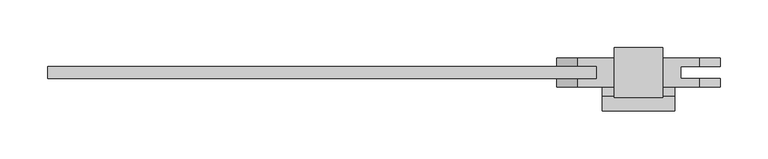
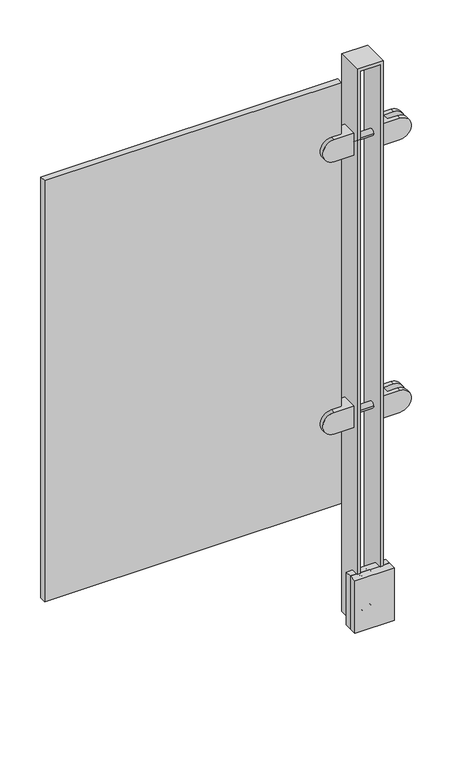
"""IFC4 building model written with IfcOpenShell, lengths in millimetres: proxy geometry, LIVERS_ICN - Glass Panel : LIVERS_ICN - Glass Panel."""

from ifc_helpers import new_model, si_unit, point, frame, origin, place, context, project, spatial, polyline, circle_curve, ellipse_curve, trimmed, outline, extrude, faceted_brep, source, transform, mapped, element, save
from ifc_brep_helpers import plane_surface, cylinder_surface, revolved_surface, advanced_brep


def building_element_proxy_80f81ed7(model_context):
    return source(origin(), model_context, "Body", "SolidModel", [
        advanced_brep(
        [(897.5541718, 55.5624457, 313.5369168), (897.5541718, 25.3999457, 313.5369168), (897.5541718, 25.3999457, 269.0869168), (897.5541718, 55.5624457, 269.0869168), (859.3530778, 55.5624457, 269.0869168), (859.3530778, 55.5624457, 313.5369168), (859.3530778, 25.3999457, 269.0869168), (859.3530778, 34.1311957, 269.0869168), (878.6822526, 34.1311957, 269.0869168), (878.6822526, 46.8311957, 269.0869168), (859.3530778, 46.8311957, 269.0869168), (859.3530778, 25.3999457, 313.5369168), (859.3530778, 46.8311957, 313.5369168), (878.6822526, 46.8311957, 313.5369168), (878.6822526, 34.1311957, 313.5369168), (859.3530778, 34.1311957, 313.5369168)],
        [
            (0, 1),
            (1, 2),
            (2, 3),
            (3, 0),
            (3, 4),
            (4, 5, circle_curve(frame((859.3530778, 55.5624457, 291.3119168), z_axis=(0.0, 1.0, 0.0), x_axis=(0.0, 0.0, -1.0)), 22.225)),
            (5, 0),
            (2, 6),
            (6, 7),
            (7, 8),
            (8, 9),
            (9, 10),
            (10, 4),
            (1, 11),
            (11, 6, circle_curve(frame((859.3530778, 25.3999457, 291.3119168), z_axis=(0.0, -1.0, 0.0), x_axis=(0.0, 0.0, -1.0)), 22.225)),
            (5, 12),
            (12, 13),
            (13, 14),
            (14, 15),
            (15, 11),
            (13, 9),
            (8, 14),
            (12, 10, circle_curve(frame((859.3530778, 46.8311957, 291.3119168), z_axis=(0.0, -1.0, 0.0), x_axis=(0.0, 0.0, -1.0)), 22.225)),
            (7, 15, circle_curve(frame((859.3530778, 34.1311957, 291.3119168), z_axis=(0.0, 1.0, 0.0), x_axis=(0.0, 0.0, -1.0)), 22.225)),
        ],
        [
            plane_surface(frame((897.5541718, 55.5624457, 269.0869168), z_axis=(1.0, 0.0, 0.0), x_axis=(0.0, 0.0, 1.0))),
            plane_surface(frame((837.0510911, 55.5624457, 313.5369168), z_axis=(0.0, 1.0, 0.0), x_axis=(1.0, 0.0, 0.0))),
            plane_surface(frame((837.0510911, 55.5624457, 269.0869168), z_axis=(0.0, 0.0, -1.0), x_axis=(1.0, 0.0, 0.0))),
            plane_surface(frame((837.0510911, 25.3999457, 269.0869168), z_axis=(0.0, -1.0, 0.0), x_axis=(1.0, 0.0, 0.0))),
            plane_surface(frame((837.0510911, 25.3999457, 313.5369168), z_axis=(0.0, 0.0, 1.0), x_axis=(1.0, 0.0, 0.0))),
            plane_surface(frame((878.6822526, 46.8311957, 269.0869168), z_axis=(-1.0, 0.0, 0.0), x_axis=(0.0, 0.0, 1.0))),
            plane_surface(frame((837.0510911, 46.8311957, 313.5369168), z_axis=(0.0, -1.0, 0.0), x_axis=(1.0, 0.0, 0.0))),
            plane_surface(frame((837.0510911, 34.1311957, 269.0869168), z_axis=(0.0, 1.0, 0.0), x_axis=(1.0, 0.0, 0.0))),
            cylinder_surface(frame((859.3530778, 55.5624457, 291.3119168), z_axis=(0.0, 1.0, 0.0), x_axis=(0.0, 0.0, -1.0)), 22.225),
        ],
        [
            (0, [[1, 2, 3, 4]]),
            (1, [[-4, 5, 6, 7]]),
            (2, [[-3, 8, 9, 10, 11, 12, 13, -5]]),
            (3, [[-2, 14, 15, -8]]),
            (4, [[-1, -7, 16, 17, 18, 19, 20, -14]]),
            (5, [[21, -11, 22, -18]]),
            (6, [[-21, -17, 23, -12]]),
            (7, [[-22, -10, 24, -19]]),
            (8, [[-6, -13, -23, -16]]),
            (8, [[-9, -15, -20, -24]]),
        ],
    ),
        advanced_brep(
        [(948.3541718, 55.5624457, 313.5369168), (948.3541718, 55.5624457, 269.0869168), (948.3541718, 25.3999457, 269.0869168), (948.3541718, 25.3999457, 313.5369168), (986.5552658, 55.5624457, 313.5369168), (986.5552658, 55.5624457, 269.0869168), (986.5552658, 46.8311957, 269.0869168), (967.2260911, 46.8311957, 269.0869168), (967.2260911, 34.1311957, 269.0869168), (986.5552658, 34.1311957, 269.0869168), (986.5552658, 25.3999457, 269.0869168), (986.5552658, 25.3999457, 313.5369168), (986.5552658, 34.1311957, 313.5369168), (967.2260911, 34.1311957, 313.5369168), (967.2260911, 46.8311957, 313.5369168), (986.5552658, 46.8311957, 313.5369168)],
        [
            (0, 1),
            (1, 2),
            (2, 3),
            (3, 0),
            (0, 4),
            (4, 5, circle_curve(frame((986.5552658, 55.5624457, 291.3119168), z_axis=(0.0, 1.0, 0.0), x_axis=(0.0, 0.0, -1.0)), 22.225)),
            (5, 1),
            (5, 6),
            (6, 7),
            (7, 8),
            (8, 9),
            (9, 10),
            (10, 2),
            (10, 11, circle_curve(frame((986.5552658, 25.3999457, 291.3119168), z_axis=(0.0, -1.0, 0.0), x_axis=(0.0, 0.0, -1.0)), 22.225)),
            (11, 3),
            (11, 12),
            (12, 13),
            (13, 14),
            (14, 15),
            (15, 4),
            (13, 8),
            (7, 14),
            (6, 15, circle_curve(frame((986.5552658, 46.8311957, 291.3119168), z_axis=(0.0, -1.0, 0.0), x_axis=(0.0, 0.0, -1.0)), 22.225)),
            (12, 9, circle_curve(frame((986.5552658, 34.1311957, 291.3119168), z_axis=(0.0, 1.0, 0.0), x_axis=(0.0, 0.0, -1.0)), 22.225)),
        ],
        [
            plane_surface(frame((948.3541718, 55.5624457, 269.0869168), z_axis=(-1.0, 0.0, 0.0), x_axis=(0.0, 0.0, 1.0))),
            plane_surface(frame((1008.8572526, 55.5624457, 313.5369168), z_axis=(0.0, 1.0, 0.0), x_axis=(-1.0, 0.0, 0.0))),
            plane_surface(frame((1008.8572526, 55.5624457, 269.0869168), z_axis=(0.0, 0.0, -1.0), x_axis=(-1.0, 0.0, 0.0))),
            plane_surface(frame((1008.8572526, 25.3999457, 269.0869168), z_axis=(0.0, -1.0, 0.0), x_axis=(-1.0, 0.0, 0.0))),
            plane_surface(frame((1008.8572526, 25.3999457, 313.5369168), z_axis=(0.0, 0.0, 1.0), x_axis=(-1.0, 0.0, 0.0))),
            plane_surface(frame((967.2260911, 46.8311957, 269.0869168), z_axis=(1.0, 0.0, 0.0), x_axis=(0.0, 0.0, 1.0))),
            plane_surface(frame((1008.8572526, 46.8311957, 313.5369168), z_axis=(0.0, -1.0, 0.0), x_axis=(-1.0, 0.0, 0.0))),
            plane_surface(frame((1008.8572526, 34.1311957, 269.0869168), z_axis=(0.0, 1.0, 0.0), x_axis=(-1.0, 0.0, 0.0))),
            cylinder_surface(frame((986.5552658, 55.5624457, 291.3119168), z_axis=(0.0, 1.0, 0.0), x_axis=(0.0, 0.0, -1.0)), 22.225),
        ],
        [
            (0, [[1, 2, 3, 4]]),
            (1, [[5, 6, 7, -1]]),
            (2, [[-7, 8, 9, 10, 11, 12, 13, -2]]),
            (3, [[-13, 14, 15, -3]]),
            (4, [[-15, 16, 17, 18, 19, 20, -5, -4]]),
            (5, [[-18, 21, -10, 22]]),
            (6, [[-9, 23, -19, -22]]),
            (7, [[-17, 24, -11, -21]]),
            (8, [[-20, -23, -8, -6]]),
            (8, [[-24, -16, -14, -12]]),
        ],
    ),
        advanced_brep(
        [(897.5541718, 55.5624457, 872.3369168), (897.5541718, 25.3999457, 872.3369168), (897.5541718, 25.3999457, 827.8869168), (897.5541718, 55.5624457, 827.8869168), (859.3530778, 55.5624457, 827.8869168), (859.3530778, 55.5624457, 872.3369168), (859.3530778, 25.3999457, 827.8869168), (859.3530778, 34.1311957, 827.8869168), (878.6822526, 34.1311957, 827.8869168), (878.6822526, 46.8311957, 827.8869168), (859.3530778, 46.8311957, 827.8869168), (859.3530778, 25.3999457, 872.3369168), (859.3530778, 46.8311957, 872.3369168), (878.6822526, 46.8311957, 872.3369168), (878.6822526, 34.1311957, 872.3369168), (859.3530778, 34.1311957, 872.3369168)],
        [
            (0, 1),
            (1, 2),
            (2, 3),
            (3, 0),
            (3, 4),
            (4, 5, circle_curve(frame((859.3530778, 55.5624457, 850.1119168), z_axis=(0.0, 1.0, 0.0), x_axis=(0.0, 0.0, -1.0)), 22.225)),
            (5, 0),
            (2, 6),
            (6, 7),
            (7, 8),
            (8, 9),
            (9, 10),
            (10, 4),
            (1, 11),
            (11, 6, circle_curve(frame((859.3530778, 25.3999457, 850.1119168), z_axis=(0.0, -1.0, 0.0), x_axis=(0.0, 0.0, -1.0)), 22.225)),
            (5, 12),
            (12, 13),
            (13, 14),
            (14, 15),
            (15, 11),
            (13, 9),
            (8, 14),
            (12, 10, circle_curve(frame((859.3530778, 46.8311957, 850.1119168), z_axis=(0.0, -1.0, 0.0), x_axis=(0.0, 0.0, -1.0)), 22.225)),
            (7, 15, circle_curve(frame((859.3530778, 34.1311957, 850.1119168), z_axis=(0.0, 1.0, 0.0), x_axis=(0.0, 0.0, -1.0)), 22.225)),
        ],
        [
            plane_surface(frame((897.5541718, 55.5624457, 827.8869168), z_axis=(1.0, 0.0, 0.0), x_axis=(0.0, 0.0, 1.0))),
            plane_surface(frame((837.0510911, 55.5624457, 872.3369168), z_axis=(0.0, 1.0, 0.0), x_axis=(1.0, 0.0, 0.0))),
            plane_surface(frame((837.0510911, 55.5624457, 827.8869168), z_axis=(0.0, 0.0, -1.0), x_axis=(1.0, 0.0, 0.0))),
            plane_surface(frame((837.0510911, 25.3999457, 827.8869168), z_axis=(0.0, -1.0, 0.0), x_axis=(1.0, 0.0, 0.0))),
            plane_surface(frame((837.0510911, 25.3999457, 872.3369168), z_axis=(0.0, 0.0, 1.0), x_axis=(1.0, 0.0, 0.0))),
            plane_surface(frame((878.6822526, 46.8311957, 827.8869168), z_axis=(-1.0, 0.0, 0.0), x_axis=(0.0, 0.0, 1.0))),
            plane_surface(frame((837.0510911, 46.8311957, 872.3369168), z_axis=(0.0, -1.0, 0.0), x_axis=(1.0, 0.0, 0.0))),
            plane_surface(frame((837.0510911, 34.1311957, 827.8869168), z_axis=(0.0, 1.0, 0.0), x_axis=(1.0, 0.0, 0.0))),
            cylinder_surface(frame((859.3530778, 55.5624457, 850.1119168), z_axis=(0.0, 1.0, 0.0), x_axis=(0.0, 0.0, -1.0)), 22.225),
        ],
        [
            (0, [[1, 2, 3, 4]]),
            (1, [[-4, 5, 6, 7]]),
            (2, [[-3, 8, 9, 10, 11, 12, 13, -5]]),
            (3, [[-2, 14, 15, -8]]),
            (4, [[-1, -7, 16, 17, 18, 19, 20, -14]]),
            (5, [[21, -11, 22, -18]]),
            (6, [[-21, -17, 23, -12]]),
            (7, [[-22, -10, 24, -19]]),
            (8, [[-6, -13, -23, -16]]),
            (8, [[-9, -15, -20, -24]]),
        ],
    ),
        advanced_brep(
        [(948.3541718, 55.5624457, 872.3369168), (948.3541718, 55.5624457, 827.8869168), (948.3541718, 25.3999457, 827.8869168), (948.3541718, 25.3999457, 872.3369168), (986.5552658, 55.5624457, 872.3369168), (986.5552658, 55.5624457, 827.8869168), (986.5552658, 46.8311957, 827.8869168), (967.2260911, 46.8311957, 827.8869168), (967.2260911, 34.1311957, 827.8869168), (986.5552658, 34.1311957, 827.8869168), (986.5552658, 25.3999457, 827.8869168), (986.5552658, 25.3999457, 872.3369168), (986.5552658, 34.1311957, 872.3369168), (967.2260911, 34.1311957, 872.3369168), (967.2260911, 46.8311957, 872.3369168), (986.5552658, 46.8311957, 872.3369168)],
        [
            (0, 1),
            (1, 2),
            (2, 3),
            (3, 0),
            (0, 4),
            (4, 5, circle_curve(frame((986.5552658, 55.5624457, 850.1119168), z_axis=(0.0, 1.0, 0.0), x_axis=(0.0, 0.0, -1.0)), 22.225)),
            (5, 1),
            (5, 6),
            (6, 7),
            (7, 8),
            (8, 9),
            (9, 10),
            (10, 2),
            (10, 11, circle_curve(frame((986.5552658, 25.3999457, 850.1119168), z_axis=(0.0, -1.0, 0.0), x_axis=(0.0, 0.0, -1.0)), 22.225)),
            (11, 3),
            (11, 12),
            (12, 13),
            (13, 14),
            (14, 15),
            (15, 4),
            (13, 8),
            (7, 14),
            (6, 15, circle_curve(frame((986.5552658, 46.8311957, 850.1119168), z_axis=(0.0, -1.0, 0.0), x_axis=(0.0, 0.0, -1.0)), 22.225)),
            (12, 9, circle_curve(frame((986.5552658, 34.1311957, 850.1119168), z_axis=(0.0, 1.0, 0.0), x_axis=(0.0, 0.0, -1.0)), 22.225)),
        ],
        [
            plane_surface(frame((948.3541718, 55.5624457, 827.8869168), z_axis=(-1.0, 0.0, 0.0), x_axis=(0.0, 0.0, 1.0))),
            plane_surface(frame((1008.8572526, 55.5624457, 872.3369168), z_axis=(0.0, 1.0, 0.0), x_axis=(-1.0, 0.0, 0.0))),
            plane_surface(frame((1008.8572526, 55.5624457, 827.8869168), z_axis=(0.0, 0.0, -1.0), x_axis=(-1.0, 0.0, 0.0))),
            plane_surface(frame((1008.8572526, 25.3999457, 827.8869168), z_axis=(0.0, -1.0, 0.0), x_axis=(-1.0, 0.0, 0.0))),
            plane_surface(frame((1008.8572526, 25.3999457, 872.3369168), z_axis=(0.0, 0.0, 1.0), x_axis=(-1.0, 0.0, 0.0))),
            plane_surface(frame((967.2260911, 46.8311957, 827.8869168), z_axis=(1.0, 0.0, 0.0), x_axis=(0.0, 0.0, 1.0))),
            plane_surface(frame((1008.8572526, 46.8311957, 872.3369168), z_axis=(0.0, -1.0, 0.0), x_axis=(-1.0, 0.0, 0.0))),
            plane_surface(frame((1008.8572526, 34.1311957, 827.8869168), z_axis=(0.0, 1.0, 0.0), x_axis=(-1.0, 0.0, 0.0))),
            cylinder_surface(frame((986.5552658, 55.5624457, 850.1119168), z_axis=(0.0, 1.0, 0.0), x_axis=(0.0, 0.0, -1.0)), 22.225),
        ],
        [
            (0, [[1, 2, 3, 4]]),
            (1, [[5, 6, 7, -1]]),
            (2, [[-7, 8, 9, 10, 11, 12, 13, -2]]),
            (3, [[-13, 14, 15, -3]]),
            (4, [[-15, 16, 17, 18, 19, 20, -5, -4]]),
            (5, [[-18, 21, -10, 22]]),
            (6, [[-9, 23, -19, -22]]),
            (7, [[-17, 24, -11, -21]]),
            (8, [[-20, -23, -8, -6]]),
            (8, [[-24, -16, -14, -12]]),
        ],
    ),
        advanced_brep(
        [(922.9541718, 28.575, -125.3541166), (922.9541718, 29.7562407, -125.3541166), (922.9541718, 29.7562407, -103.1291055), (922.9541718, 28.575, -103.1291055), (922.9541718, 28.575, -114.2416111), (922.9541718, 32.325, -119.8541166), (922.9541718, 30.8816229, -114.2416111), (922.9541718, 32.325, -108.6291055), (922.9541718, 34.8740117, -119.8541166), (922.9541718, 34.8740117, -108.6291055), (922.9541718, 33.8500285, -122.802123), (922.9541718, 33.8500285, -105.6810991), (922.9541718, 31.8562692, -124.5603989), (922.9541718, 31.8562692, -103.9228232)],
        [
            (0, 1),
            (1, 2, circle_curve(frame((922.9541718, 29.7562407, -114.2416111), z_axis=(0.0, -1.0, 0.0), x_axis=(0.0, 0.0, 1.0)), 11.1125056)),
            (2, 3),
            (3, 0, circle_curve(frame((922.9541718, 28.575, -114.2416111), z_axis=(0.0, 1.0, 0.0), x_axis=(0.0, 0.0, 1.0)), 11.1125056)),
            (2, 1, circle_curve(frame((922.9541718, 29.7562407, -114.2416111), z_axis=(0.0, -1.0, 0.0), x_axis=(0.0, 0.0, 1.0)), 11.1125056)),
            (0, 3, circle_curve(frame((922.9541718, 28.575, -114.2416111), z_axis=(0.0, 1.0, 0.0), x_axis=(0.0, 0.0, 1.0)), 11.1125056)),
            (4, 0),
            (3, 4),
            (5, 6),
            (6, 7),
            (7, 5, circle_curve(frame((922.9541718, 32.325, -114.2416111), z_axis=(0.0, 1.0, 0.0), x_axis=(0.0, 0.0, 1.0)), 5.6125056)),
            (5, 7, circle_curve(frame((922.9541718, 32.325, -114.2416111), z_axis=(0.0, 1.0, 0.0), x_axis=(0.0, 0.0, 1.0)), 5.6125056)),
            (8, 5),
            (7, 9),
            (9, 8, circle_curve(frame((922.9541718, 34.8740117, -114.2416111), z_axis=(0.0, 1.0, 0.0), x_axis=(0.0, 0.0, 1.0)), 5.6125056)),
            (8, 9, circle_curve(frame((922.9541718, 34.8740117, -114.2416111), z_axis=(0.0, 1.0, 0.0), x_axis=(0.0, 0.0, 1.0)), 5.6125056)),
            (10, 8, circle_curve(frame((922.9541718, 31.75, -120.4208407), z_axis=(1.0, 0.0, 0.0), x_axis=(0.0, -1.0, 0.0)), 3.175)),
            (9, 11, circle_curve(frame((922.9541718, 31.75, -108.0623814), z_axis=(1.0, 0.0, 0.0), x_axis=(0.0, -1.0, 0.0)), 3.175)),
            (11, 10, circle_curve(frame((922.9541718, 33.8500285, -114.2416111), z_axis=(0.0, 1.0, 0.0), x_axis=(0.0, 0.0, 1.0)), 8.560512)),
            (10, 11, circle_curve(frame((922.9541718, 33.8500285, -114.2416111), z_axis=(0.0, 1.0, 0.0), x_axis=(0.0, 0.0, 1.0)), 8.560512)),
            (12, 10),
            (11, 13),
            (13, 12, circle_curve(frame((922.9541718, 31.8562692, -114.2416111), z_axis=(0.0, 1.0, 0.0), x_axis=(0.0, 0.0, 1.0)), 10.3187879)),
            (12, 13, circle_curve(frame((922.9541718, 31.8562692, -114.2416111), z_axis=(0.0, 1.0, 0.0), x_axis=(0.0, 0.0, 1.0)), 10.3187879)),
            (1, 12, circle_curve(frame((922.9541718, 29.7562407, -122.1791166), z_axis=(1.0, 0.0, 0.0), x_axis=(0.0, -1.0, 0.0)), 3.175)),
            (13, 2, circle_curve(frame((922.9541718, 29.7562407, -106.3041055), z_axis=(1.0, 0.0, 0.0), x_axis=(0.0, -1.0, 0.0)), 3.175)),
        ],
        [
            cylinder_surface(frame((922.9541718, 28.575, -114.2416111), z_axis=(0.0, -1.0, 0.0), x_axis=(0.0, 0.0, 1.0)), 11.1125056),
            plane_surface(frame((922.9541718, 28.575, -114.2416111), z_axis=(0.0, -1.0, 0.0), x_axis=(0.0, 0.0, 1.0))),
            revolved_surface(polyline([(922.9541718, 30.8816229, -114.2416111), (922.9541718, 32.325, -108.6291055)]), (922.9541718, 28.575, -114.2416111), (0.0, -1.0, 0.0)),
            revolved_surface(polyline([(922.9541718, 32.325, -108.6291055), (922.9541718, 34.8740117, -108.6291055)]), (922.9541718, 28.575, -114.2416111), (0.0, -1.0, 0.0)),
            revolved_surface(trimmed(ellipse_curve(frame((922.9541718, 31.75, -108.0623814), z_axis=(1.0, 0.0, 0.0), x_axis=(0.0, -1.0, 0.0)), 3.175, 3.175), [point((922.9541718, 34.8740117, -108.6291055))], [point((922.9541718, 33.8500285, -105.6810991))], True, "CARTESIAN"), (922.9541718, 28.575, -114.2416111), (0.0, -1.0, 0.0)),
            revolved_surface(polyline([(922.9541718, 33.8500285, -105.6810991), (922.9541718, 31.8562692, -103.9228232)]), (922.9541718, 28.575, -114.2416111), (0.0, -1.0, 0.0)),
            revolved_surface(trimmed(ellipse_curve(frame((922.9541718, 29.7562407, -106.3041055), z_axis=(1.0, 0.0, 0.0), x_axis=(0.0, -1.0, 0.0)), 3.175, 3.175), [point((922.9541718, 31.8562692, -103.9228232))], [point((922.9541718, 29.7562407, -103.1291055))], True, "CARTESIAN"), (922.9541718, 28.575, -114.2416111), (0.0, -1.0, 0.0)),
        ],
        [
            (0, [[1, 2, 3, 4]]),
            (0, [[-3, 5, -1, 6]]),
            (1, [[7, -4, 8]]),
            (1, [[-8, -6, -7]]),
            (2, [[9, 10, 11]]),
            (2, [[-10, -9, 12]]),
            (3, [[13, -11, 14, 15]]),
            (3, [[-14, -12, -13, 16]]),
            (4, [[17, -15, 18, 19]]),
            (4, [[-18, -16, -17, 20]]),
            (5, [[21, -19, 22, 23]]),
            (5, [[-22, -20, -21, 24]]),
            (6, [[25, -23, 26, -2]]),
            (6, [[-26, -24, -25, -5]]),
        ],
    ),
        advanced_brep(
        [(922.9541718, 28.575, -55.5041166), (922.9541718, 29.7562407, -55.5041166), (922.9541718, 29.7562407, -33.2791055), (922.9541718, 28.575, -33.2791055), (922.9541718, 28.575, -44.3916111), (922.9541718, 33.8500285, -52.952123), (922.9541718, 34.8740117, -50.0041166), (922.9541718, 34.8740117, -38.7791055), (922.9541718, 33.8500285, -35.8310991), (922.9541718, 31.8562692, -54.7103989), (922.9541718, 31.8562692, -34.0728232), (922.9541718, 32.325, -50.0041166), (922.9541718, 30.8816229, -44.3916111), (922.9541718, 32.325, -38.7791055)],
        [
            (0, 1),
            (1, 2, circle_curve(frame((922.9541718, 29.7562407, -44.3916111), z_axis=(0.0, -1.0, 0.0), x_axis=(0.0, 0.0, 1.0)), 11.1125056)),
            (2, 3),
            (3, 0, circle_curve(frame((922.9541718, 28.575, -44.3916111), z_axis=(0.0, 1.0, 0.0), x_axis=(0.0, 0.0, 1.0)), 11.1125056)),
            (2, 1, circle_curve(frame((922.9541718, 29.7562407, -44.3916111), z_axis=(0.0, -1.0, 0.0), x_axis=(0.0, 0.0, 1.0)), 11.1125056)),
            (0, 3, circle_curve(frame((922.9541718, 28.575, -44.3916111), z_axis=(0.0, 1.0, 0.0), x_axis=(0.0, 0.0, 1.0)), 11.1125056)),
            (4, 0),
            (3, 4),
            (5, 6, circle_curve(frame((922.9541718, 31.75, -50.5708407), z_axis=(1.0, 0.0, 0.0), x_axis=(0.0, -1.0, 0.0)), 3.175)),
            (6, 7, circle_curve(frame((922.9541718, 34.8740117, -44.3916111), z_axis=(0.0, -1.0, 0.0), x_axis=(0.0, 0.0, 1.0)), 5.6125056)),
            (7, 8, circle_curve(frame((922.9541718, 31.75, -38.2123814), z_axis=(1.0, 0.0, 0.0), x_axis=(0.0, -1.0, 0.0)), 3.175)),
            (8, 5, circle_curve(frame((922.9541718, 33.8500285, -44.3916111), z_axis=(0.0, 1.0, 0.0), x_axis=(0.0, 0.0, 1.0)), 8.560512)),
            (7, 6, circle_curve(frame((922.9541718, 34.8740117, -44.3916111), z_axis=(0.0, -1.0, 0.0), x_axis=(0.0, 0.0, 1.0)), 5.6125056)),
            (5, 8, circle_curve(frame((922.9541718, 33.8500285, -44.3916111), z_axis=(0.0, 1.0, 0.0), x_axis=(0.0, 0.0, 1.0)), 8.560512)),
            (9, 5),
            (8, 10),
            (10, 9, circle_curve(frame((922.9541718, 31.8562692, -44.3916111), z_axis=(0.0, 1.0, 0.0), x_axis=(0.0, 0.0, 1.0)), 10.3187879)),
            (9, 10, circle_curve(frame((922.9541718, 31.8562692, -44.3916111), z_axis=(0.0, 1.0, 0.0), x_axis=(0.0, 0.0, 1.0)), 10.3187879)),
            (1, 9, circle_curve(frame((922.9541718, 29.7562407, -52.3291166), z_axis=(1.0, 0.0, 0.0), x_axis=(0.0, -1.0, 0.0)), 3.175)),
            (10, 2, circle_curve(frame((922.9541718, 29.7562407, -36.4541055), z_axis=(1.0, 0.0, 0.0), x_axis=(0.0, -1.0, 0.0)), 3.175)),
            (11, 12),
            (12, 13),
            (13, 11, circle_curve(frame((922.9541718, 32.325, -44.3916111), z_axis=(0.0, 1.0, 0.0), x_axis=(0.0, 0.0, 1.0)), 5.6125056)),
            (11, 13, circle_curve(frame((922.9541718, 32.325, -44.3916111), z_axis=(0.0, 1.0, 0.0), x_axis=(0.0, 0.0, 1.0)), 5.6125056)),
            (6, 11),
            (13, 7),
        ],
        [
            cylinder_surface(frame((922.9541718, 28.575, -44.3916111), z_axis=(0.0, -1.0, 0.0), x_axis=(0.0, 0.0, 1.0)), 11.1125056),
            plane_surface(frame((922.9541718, 28.575, -44.3916111), z_axis=(0.0, -1.0, 0.0), x_axis=(0.0, 0.0, 1.0))),
            revolved_surface(trimmed(ellipse_curve(frame((922.9541718, 31.75, -38.2123814), z_axis=(1.0, 0.0, 0.0), x_axis=(0.0, -1.0, 0.0)), 3.175, 3.175), [point((922.9541718, 34.8740117, -38.7791055))], [point((922.9541718, 33.8500285, -35.8310991))], True, "CARTESIAN"), (922.9541718, 28.575, -44.3916111), (0.0, -1.0, 0.0)),
            revolved_surface(polyline([(922.9541718, 33.8500285, -35.8310991), (922.9541718, 31.8562692, -34.0728232)]), (922.9541718, 28.575, -44.3916111), (0.0, -1.0, 0.0)),
            revolved_surface(trimmed(ellipse_curve(frame((922.9541718, 29.7562407, -36.4541055), z_axis=(1.0, 0.0, 0.0), x_axis=(0.0, -1.0, 0.0)), 3.175, 3.175), [point((922.9541718, 31.8562692, -34.0728232))], [point((922.9541718, 29.7562407, -33.2791055))], True, "CARTESIAN"), (922.9541718, 28.575, -44.3916111), (0.0, -1.0, 0.0)),
            revolved_surface(polyline([(922.9541718, 30.8816229, -44.3916111), (922.9541718, 32.325, -38.7791055)]), (922.9541718, 28.575, -44.3916111), (0.0, -1.0, 0.0)),
            revolved_surface(polyline([(922.9541718, 32.325, -38.7791055), (922.9541718, 34.8740117, -38.7791055)]), (922.9541718, 28.575, -44.3916111), (0.0, -1.0, 0.0)),
        ],
        [
            (0, [[1, 2, 3, 4]]),
            (0, [[-3, 5, -1, 6]]),
            (1, [[7, -4, 8]]),
            (1, [[-8, -6, -7]]),
            (2, [[9, 10, 11, 12]]),
            (2, [[-11, 13, -9, 14]]),
            (3, [[15, -12, 16, 17]]),
            (3, [[-16, -14, -15, 18]]),
            (4, [[19, -17, 20, -2]]),
            (4, [[-20, -18, -19, -5]]),
            (5, [[21, 22, 23]]),
            (5, [[-22, -21, 24]]),
            (6, [[25, -23, 26, -10]]),
            (6, [[-26, -24, -25, -13]]),
        ],
    ),
        faceted_brep([(948.3541718, 14.2874305, 1010.2680522), (948.3541718, 14.2874305, -133.2916111), (948.3541718, 15.875, -133.2916111), (948.3541718, 15.875, -25.3416111), (948.3541718, 28.575, -25.3416111), (948.3541718, 28.575, -133.2916111), (948.3541718, 66.6749609, -133.2916111), (948.3541718, 66.6749609, 1010.2680522), (942.0041718, 66.6749609, -133.2916111), (942.0041718, 28.575, -133.2916111), (942.0041718, 28.575, -25.3416111), (942.0041718, 15.875, -25.3416111), (942.0041718, 15.875, -133.2916111), (942.0041718, 14.2874305, -133.2916111), (942.0041718, 14.2874305, 1003.9180522), (942.0041718, 66.6749609, 1003.9180522), (884.8541718, 28.575, -133.2916111), (897.5541718, 28.575, -133.2916111), (897.5541718, 66.6749609, -133.2916111), (903.9041718, 66.6749609, -133.2916111), (903.9041718, 28.575, -133.2916111), (961.0541718, 28.575, -133.2916111), (961.0541718, 15.875, -133.2916111), (903.9041718, 15.875, -133.2916111), (903.9041718, 14.2874305, -133.2916111), (897.5541718, 14.2874305, -133.2916111), (897.5541718, 15.875, -133.2916111), (884.8541718, 15.875, -133.2916111), (897.5541718, 14.2874305, 1010.2680522), (903.9041718, 14.2874305, 1003.9180522), (897.5541718, 66.6749609, 1010.2680522), (903.9041718, 66.6749609, 1003.9180522), (903.9041718, 15.875, -25.3416111), (903.9041718, 28.575, -25.3416111), (897.5541718, 28.575, -25.3416111), (897.5541718, 15.875, -25.3416111), (961.0541718, 28.575, -25.3416111), (884.8541718, 28.575, -25.3416111), (884.8541718, 15.875, -25.3416111), (961.0541718, 15.875, -25.3416111)], [[[0, 1, 2, 3, 4, 5, 6, 7]], [[8, 9, 10, 11, 12, 13, 14, 15]], [[16, 17, 18, 19, 20, 9, 8, 6, 5, 21, 22, 2, 1, 13, 12, 23, 24, 25, 26, 27]], [[1, 0, 28, 25, 24, 29, 14, 13]], [[7, 30, 28, 0]], [[8, 15, 31, 19, 18, 30, 7, 6]], [[24, 23, 32, 33, 20, 19, 31, 29]], [[14, 29, 31, 15]], [[30, 18, 17, 34, 35, 26, 25, 28]], [[20, 33, 10, 9]], [[21, 5, 4, 36]], [[37, 34, 17, 16]], [[12, 11, 32, 23]], [[27, 26, 35, 38]], [[39, 3, 2, 22]], [[36, 39, 22, 21]], [[33, 32, 11, 10]], [[36, 4, 3, 39]], [[38, 35, 34, 37]], [[16, 27, 38, 37]]]),
        extrude(outline(polyline([(961.0541718, 15.875), (961.0541718, 0.0), (884.8541718, 0.0), (884.8541718, 15.875), (961.0541718, 15.875)])), frame((0.0, 0.0, -133.2916111), z_axis=(0.0, 0.0, 1.0), x_axis=(1.0, 0.0, 0.0)), (0.0, 0.0, 1.0), 107.95),
        advanced_brep(
        [(903.9041718, 41.2749421, 291.3119224), (903.9041718, 47.5989918, 291.3119224), (903.9041718, 34.9508924, 291.3119224), (942.0181581, 47.5989918, 291.3119224), (942.0181581, 41.2749421, 291.3119224), (942.0181581, 34.9508924, 291.3119224)],
        [
            (0, 1),
            (1, 2, circle_curve(frame((903.9041718, 41.2749421, 291.3119224), z_axis=(-1.0, 0.0, 0.0), x_axis=(0.0, -1.0, 0.0)), 6.3240497)),
            (2, 0),
            (2, 1, circle_curve(frame((903.9041718, 41.2749421, 291.3119224), z_axis=(-1.0, 0.0, 0.0), x_axis=(0.0, -1.0, 0.0)), 6.3240497)),
            (3, 4),
            (4, 5),
            (5, 3, circle_curve(frame((942.0181581, 41.2749421, 291.3119224), z_axis=(1.0, 0.0, 0.0), x_axis=(0.0, -1.0, 0.0)), 6.3240497)),
            (3, 5, circle_curve(frame((942.0181581, 41.2749421, 291.3119224), z_axis=(1.0, 0.0, 0.0), x_axis=(0.0, -1.0, 0.0)), 6.3240497)),
            (1, 3),
            (5, 2),
        ],
        [
            plane_surface(frame((903.9041718, 41.2749421, 291.3119224), z_axis=(-1.0, 0.0, 0.0), x_axis=(0.0, -1.0, 0.0))),
            plane_surface(frame((942.0181581, 41.2749421, 291.3119224), z_axis=(1.0, 0.0, 0.0), x_axis=(0.0, -1.0, 0.0))),
            cylinder_surface(frame((903.9041718, 41.2749421, 291.3119224), z_axis=(-1.0, 0.0, 0.0), x_axis=(0.0, -1.0, 0.0)), 6.3240497),
        ],
        [
            (0, [[1, 2, 3]]),
            (0, [[-3, 4, -1]]),
            (1, [[5, 6, 7]]),
            (1, [[-6, -5, 8]]),
            (2, [[9, -7, 10, -2]]),
            (2, [[-10, -8, -9, -4]]),
        ],
    ),
        advanced_brep(
        [(903.9041718, 41.2749421, 850.1119224), (903.9041718, 47.5989918, 850.1119224), (903.9041718, 34.9508924, 850.1119224), (942.0181581, 47.5989918, 850.1119224), (942.0181581, 41.2749421, 850.1119224), (942.0181581, 34.9508924, 850.1119224)],
        [
            (0, 1),
            (1, 2, circle_curve(frame((903.9041718, 41.2749421, 850.1119224), z_axis=(-1.0, 0.0, 0.0), x_axis=(0.0, -1.0, 0.0)), 6.3240497)),
            (2, 0),
            (2, 1, circle_curve(frame((903.9041718, 41.2749421, 850.1119224), z_axis=(-1.0, 0.0, 0.0), x_axis=(0.0, -1.0, 0.0)), 6.3240497)),
            (3, 4),
            (4, 5),
            (5, 3, circle_curve(frame((942.0181581, 41.2749421, 850.1119224), z_axis=(1.0, 0.0, 0.0), x_axis=(0.0, -1.0, 0.0)), 6.3240497)),
            (3, 5, circle_curve(frame((942.0181581, 41.2749421, 850.1119224), z_axis=(1.0, 0.0, 0.0), x_axis=(0.0, -1.0, 0.0)), 6.3240497)),
            (1, 3),
            (5, 2),
        ],
        [
            plane_surface(frame((903.9041718, 41.2749421, 850.1119224), z_axis=(-1.0, 0.0, 0.0), x_axis=(0.0, -1.0, 0.0))),
            plane_surface(frame((942.0181581, 41.2749421, 850.1119224), z_axis=(1.0, 0.0, 0.0), x_axis=(0.0, -1.0, 0.0))),
            cylinder_surface(frame((903.9041718, 41.2749421, 850.1119224), z_axis=(-1.0, 0.0, 0.0), x_axis=(0.0, -1.0, 0.0)), 6.3240497),
        ],
        [
            (0, [[1, 2, 3]]),
            (0, [[-3, 4, -1]]),
            (1, [[5, 6, 7]]),
            (1, [[-6, -5, 8]]),
            (2, [[9, -7, 10, -2]]),
            (2, [[-10, -8, -9, -4]]),
        ],
    ),
        extrude(outline(polyline([(878.6822526, 34.1309994), (303.1294346, 34.1309994), (303.1294346, 46.8311957), (878.6822526, 46.8311957), (878.6822526, 34.1309994)])), frame((0.0, 0.0, 114.3), z_axis=(0.0, 0.0, 1.0), x_axis=(1.0, 0.0, 0.0)), (0.0, 0.0, 1.0), 863.6),
    ])


if __name__ == "__main__":
    model = new_model("IFC4")
    model_context = context("Model", 3, world=origin())
    ifc_project = project(units=[si_unit("LENGTHUNIT", "METRE", prefix="MILLI")], contexts=[model_context])
    site = spatial("IfcSite", under=ifc_project)
    building = spatial("IfcBuilding", under=site)
    placement = place(None, origin())
    building_element_proxy_shape = building_element_proxy_80f81ed7(model_context)
    element("IfcBuildingElementProxy", 1, Name="LIVERS_ICN - Glass Panel : LIVERS_ICN - Glass Panel", ObjectType="LIVERS_ICN - Glass Panel : LIVERS_ICN - Glass Panel", at=placement, inside=building, context=model_context, shape_type="MappedRepresentation", body=[
        mapped(building_element_proxy_shape, transform((0.0, 0.0, 0.0), x_axis=(1.0, 0.0, 0.0), y_axis=(0.0, 1.0, 0.0), z_axis=(0.0, 0.0, 1.0))),
    ])
    save(model, "model.ifc")
